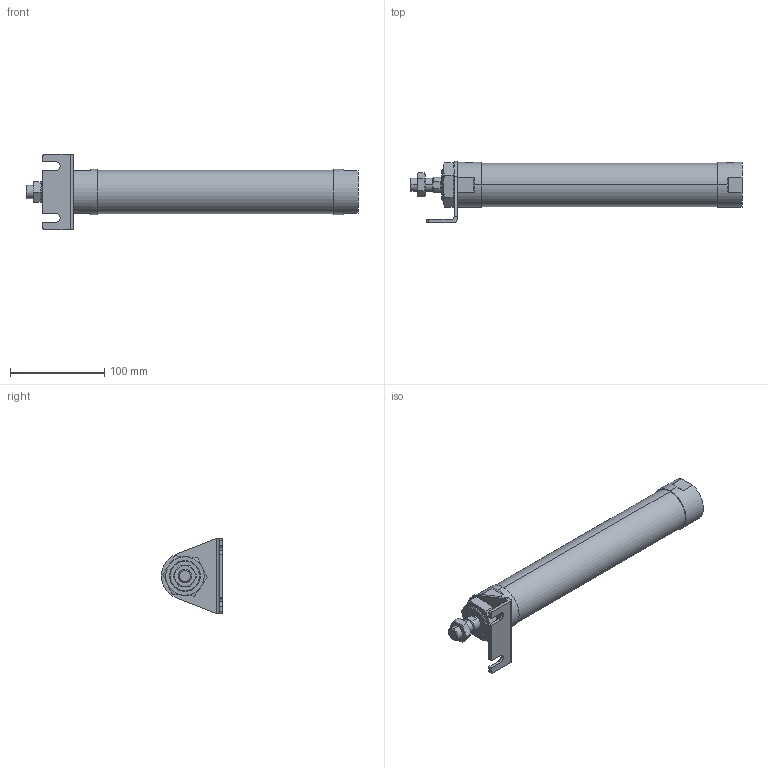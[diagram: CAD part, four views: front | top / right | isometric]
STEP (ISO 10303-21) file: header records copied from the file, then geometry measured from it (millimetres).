
FILE_DESCRIPTION (( 'STEP AP203' ), '1' );
FILE_NAME ('JGND2-40-200-L.STEP', '2016-08-04T03:14:03', ( '' ), ( '' ), 'SwSTEP 2.0', 'SolidWorks 2014', '' );
FILE_SCHEMA (( 'CONFIG_CONTROL_DESIGN' ));
Length unit declared in the file: millimetre
Products named in the file (5): J#2-40-200(P); J#2-40-L; JGND2-40-200-L
Assembly tree (4 placements, depth 2):
  JGND2-40-200-L
    J#2-40-200(P)
    (unnamed)
    (unnamed)
    J#2-40-L
Bounding box: 353 x 65 x 80 mm (x, y, z)
Volume: 552230.6 mm3; surface area: 68832.7 mm2
Topology: 4 solids, 4 shells, 116 faces, 273 edges, 167 vertices
Faces by surface type: plane 47, cylinder 32, torus 24, cone 13
Entity records: 4269 total; most frequent: CARTESIAN_POINT 1150, DIRECTION 548, ORIENTED_EDGE 538, EDGE_CURVE 269, AXIS2_PLACEMENT_3D 219, VERTEX_POINT 167, EDGE_LOOP 128, ADVANCED_FACE 116
